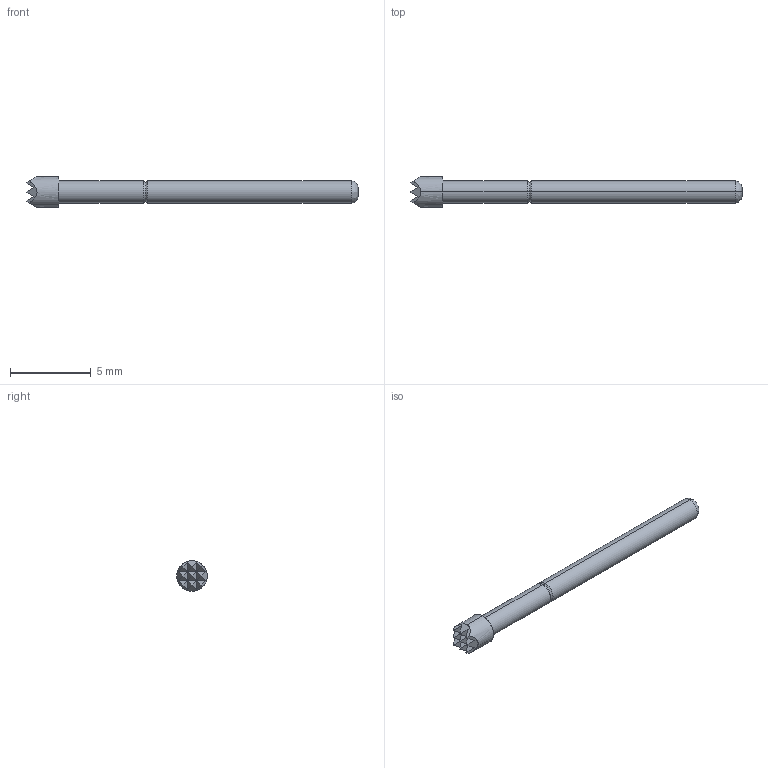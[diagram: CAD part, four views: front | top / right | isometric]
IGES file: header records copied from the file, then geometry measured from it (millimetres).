
Start section: SolidWorks IGES file using analytic representation for surfaces
Global section: file name: Z:\probe solid model mockups\Solidworks models\IGES Files\EPA-2\EPA-2H Full.IGS; native system: SolidWorks 2006 by SolidWorks Corporation; preprocessor: SolidWorks 2006 by SolidWorks Corporation; author: tsakatani; date: 071220.162048; units: inch
Bounding box: 20.57 x 1.91 x 1.91 mm (x, y, z)
Surface area: 96.8 mm2 (no closed solid volume)
Topology: 0 solids, 0 shells, 42 faces, 254 edges, 254 vertices
Faces by surface type: bspline 36, revolution 6
